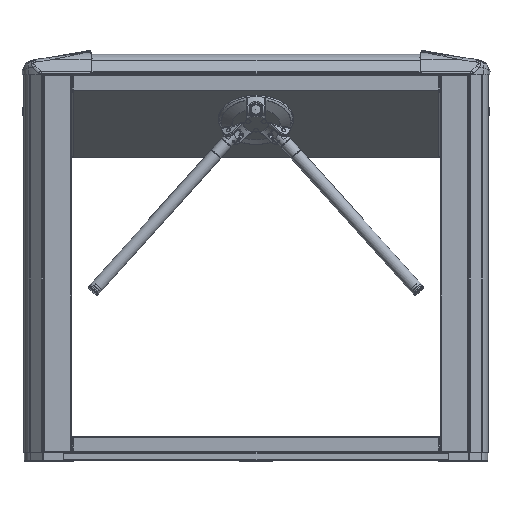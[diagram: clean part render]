
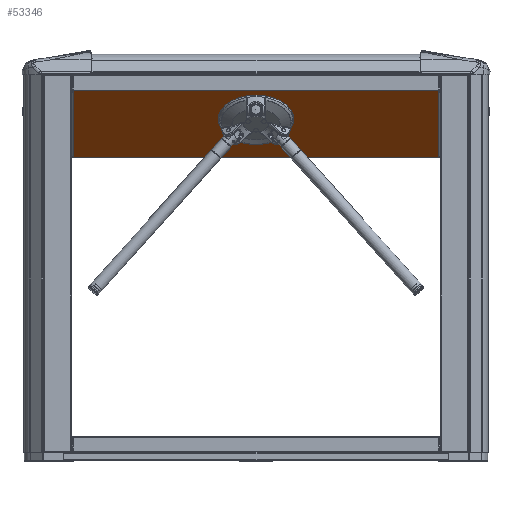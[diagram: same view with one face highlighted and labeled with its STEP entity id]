
A CAD part, front view. The second image highlights one B-rep face of the part: STEP entity #53346.
In plain terms, the highlighted planar face has unit normal (0, -0.643, -0.766) as drawn and (0.643, -0.766, 0) by its records, which use the part's own axes.
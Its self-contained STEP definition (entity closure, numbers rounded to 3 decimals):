
#5920=LINE('',#88881,#9576);
#5922=LINE('',#88890,#9578);
#5923=LINE('',#88893,#9579);
#5924=LINE('',#88895,#9580);
#5925=LINE('',#88896,#9581);
#5926=LINE('',#88898,#9582);
#5927=LINE('',#88902,#9583);
#5928=LINE('',#88906,#9584);
#5929=LINE('',#88908,#9585);
#5930=LINE('',#88910,#9586);
#5931=LINE('',#88912,#9587);
#5932=LINE('',#88914,#9588);
#5933=LINE('',#88916,#9589);
#5934=LINE('',#88918,#9590);
#9576=VECTOR('',#71250,1000.);
#9578=VECTOR('',#71258,1000.);
#9579=VECTOR('',#71259,1000.);
#9580=VECTOR('',#71260,1000.);
#9581=VECTOR('',#71261,1000.);
#9582=VECTOR('',#71262,1000.);
#9583=VECTOR('',#71265,1000.);
#9584=VECTOR('',#71268,1000.);
#9585=VECTOR('',#71269,1000.);
#9586=VECTOR('',#71270,1000.);
#9587=VECTOR('',#71271,1000.);
#9588=VECTOR('',#71272,1000.);
#9589=VECTOR('',#71273,1000.);
#9590=VECTOR('',#71274,1000.);
#14911=ORIENTED_EDGE('',*,*,#29803,.F.);
#14912=ORIENTED_EDGE('',*,*,#29804,.T.);
#14913=ORIENTED_EDGE('',*,*,#29805,.T.);
#14914=ORIENTED_EDGE('',*,*,#29806,.T.);
#14915=ORIENTED_EDGE('',*,*,#29800,.T.);
#14916=ORIENTED_EDGE('',*,*,#29807,.T.);
#14917=ORIENTED_EDGE('',*,*,#29808,.T.);
#14918=ORIENTED_EDGE('',*,*,#29809,.T.);
#14919=ORIENTED_EDGE('',*,*,#29810,.T.);
#14920=ORIENTED_EDGE('',*,*,#29811,.F.);
#14921=ORIENTED_EDGE('',*,*,#29812,.F.);
#14922=ORIENTED_EDGE('',*,*,#29813,.F.);
#14923=ORIENTED_EDGE('',*,*,#29814,.F.);
#14924=ORIENTED_EDGE('',*,*,#29815,.F.);
#14925=ORIENTED_EDGE('',*,*,#29816,.F.);
#14926=ORIENTED_EDGE('',*,*,#29817,.F.);
#14927=ORIENTED_EDGE('',*,*,#29818,.F.);
#29800=EDGE_CURVE('',#37379,#37380,#5920,.T.);
#29803=EDGE_CURVE('',#37382,#37382,#41761,.T.);
#29804=EDGE_CURVE('',#37383,#37384,#5922,.F.);
#29805=EDGE_CURVE('',#37384,#37385,#5923,.T.);
#29806=EDGE_CURVE('',#37385,#37379,#5924,.F.);
#29807=EDGE_CURVE('',#37380,#37386,#5925,.F.);
#29808=EDGE_CURVE('',#37386,#37387,#5926,.T.);
#29809=EDGE_CURVE('',#37387,#37388,#41762,.F.);
#29810=EDGE_CURVE('',#37388,#37389,#5927,.T.);
#29811=EDGE_CURVE('',#37390,#37389,#41763,.F.);
#29812=EDGE_CURVE('',#37391,#37390,#5928,.T.);
#29813=EDGE_CURVE('',#37392,#37391,#5929,.F.);
#29814=EDGE_CURVE('',#37393,#37392,#5930,.T.);
#29815=EDGE_CURVE('',#37394,#37393,#5931,.F.);
#29816=EDGE_CURVE('',#37395,#37394,#5932,.T.);
#29817=EDGE_CURVE('',#37396,#37395,#5933,.F.);
#29818=EDGE_CURVE('',#37383,#37396,#5934,.T.);
#37379=VERTEX_POINT('',#88882);
#37380=VERTEX_POINT('',#88883);
#37382=VERTEX_POINT('',#88889);
#37383=VERTEX_POINT('',#88891);
#37384=VERTEX_POINT('',#88892);
#37385=VERTEX_POINT('',#88894);
#37386=VERTEX_POINT('',#88897);
#37387=VERTEX_POINT('',#88899);
#37388=VERTEX_POINT('',#88901);
#37389=VERTEX_POINT('',#88903);
#37390=VERTEX_POINT('',#88905);
#37391=VERTEX_POINT('',#88907);
#37392=VERTEX_POINT('',#88909);
#37393=VERTEX_POINT('',#88911);
#37394=VERTEX_POINT('',#88913);
#37395=VERTEX_POINT('',#88915);
#37396=VERTEX_POINT('',#88917);
#41761=CIRCLE('',#64029,94.);
#41762=CIRCLE('',#64030,2.5);
#41763=CIRCLE('',#64031,2.5);
#44291=EDGE_LOOP('',(#14911));
#44292=EDGE_LOOP('',(#14912,#14913,#14914,#14915,#14916,#14917,#14918,#14919,
#14920,#14921,#14922,#14923,#14924,#14925,#14926,#14927));
#48239=FACE_BOUND('',#44291,.T.);
#48240=FACE_BOUND('',#44292,.T.);
#51841=PLANE('',#64028);
#53346=ADVANCED_FACE('',(#48239,#48240),#51841,.T.);
#64028=AXIS2_PLACEMENT_3D('',#88887,#71254,#71255);
#64029=AXIS2_PLACEMENT_3D('',#88888,#71256,#71257);
#64030=AXIS2_PLACEMENT_3D('',#88900,#71263,#71264);
#64031=AXIS2_PLACEMENT_3D('',#88904,#71266,#71267);
#71250=DIRECTION('',(0.,0.,1.));
#71254=DIRECTION('',(0.643,-0.766,0.));
#71255=DIRECTION('',(0.766,0.643,0.));
#71256=DIRECTION('',(0.643,-0.766,0.));
#71257=DIRECTION('',(0.766,0.643,0.));
#71258=DIRECTION('',(0.766,0.643,0.));
#71259=DIRECTION('',(0.,0.,-1.));
#71260=DIRECTION('',(0.766,0.643,0.));
#71261=DIRECTION('',(0.766,0.643,0.));
#71262=DIRECTION('',(0.,0.,-1.));
#71263=DIRECTION('',(0.643,-0.766,0.));
#71264=DIRECTION('',(0.766,0.643,0.));
#71265=DIRECTION('',(0.,0.,-1.));
#71266=DIRECTION('',(-0.643,0.766,0.));
#71267=DIRECTION('',(0.766,0.643,0.));
#71268=DIRECTION('',(0.,0.,1.));
#71269=DIRECTION('',(0.766,0.643,0.));
#71270=DIRECTION('',(0.,0.,-1.));
#71271=DIRECTION('',(0.766,0.643,0.));
#71272=DIRECTION('',(0.,0.,1.));
#71273=DIRECTION('',(0.766,0.643,0.));
#71274=DIRECTION('',(0.,0.,-1.));
#88881=CARTESIAN_POINT('',(-198.995,-206.977,460.));
#88882=CARTESIAN_POINT('',(-198.995,-206.977,457.));
#88883=CARTESIAN_POINT('',(-198.995,-206.977,458.3));
#88887=CARTESIAN_POINT('',(0.,-40.,460.));
#88888=CARTESIAN_POINT('',(-85.697,-111.908,0.));
#88889=CARTESIAN_POINT('',(-13.689,-51.486,0.));
#88890=CARTESIAN_POINT('',(0.,-40.,458.3));
#88891=CARTESIAN_POINT('',(-1.072,-40.899,458.3));
#88892=CARTESIAN_POINT('',(-1.148,-40.963,458.3));
#88893=CARTESIAN_POINT('',(-1.148,-40.963,460.));
#88894=CARTESIAN_POINT('',(-1.148,-40.963,457.));
#88895=CARTESIAN_POINT('',(-1.148,-40.963,457.));
#88896=CARTESIAN_POINT('',(0.,-40.,458.3));
#88897=CARTESIAN_POINT('',(-199.072,-207.041,458.3));
#88898=CARTESIAN_POINT('',(-199.072,-207.041,460.));
#88899=CARTESIAN_POINT('',(-199.072,-207.041,395.986));
#88900=CARTESIAN_POINT('',(-200.831,-208.518,395.));
#88901=CARTESIAN_POINT('',(-199.072,-207.041,394.014));
#88902=CARTESIAN_POINT('',(-199.072,-207.041,460.));
#88903=CARTESIAN_POINT('',(-199.072,-207.041,-394.014));
#88904=CARTESIAN_POINT('',(-200.831,-208.518,-395.));
#88905=CARTESIAN_POINT('',(-199.072,-207.041,-395.986));
#88906=CARTESIAN_POINT('',(-199.072,-207.041,-460.));
#88907=CARTESIAN_POINT('',(-199.072,-207.041,-458.3));
#88908=CARTESIAN_POINT('',(0.,-40.,-458.3));
#88909=CARTESIAN_POINT('',(-198.995,-206.977,-458.3));
#88910=CARTESIAN_POINT('',(-198.995,-206.977,-460.));
#88911=CARTESIAN_POINT('',(-198.995,-206.977,-457.));
#88912=CARTESIAN_POINT('',(-1.148,-40.963,-457.));
#88913=CARTESIAN_POINT('',(-1.148,-40.963,-457.));
#88914=CARTESIAN_POINT('',(-1.148,-40.963,-460.));
#88915=CARTESIAN_POINT('',(-1.148,-40.963,-458.3));
#88916=CARTESIAN_POINT('',(0.,-40.,-458.3));
#88917=CARTESIAN_POINT('',(-1.072,-40.899,-458.3));
#88918=CARTESIAN_POINT('',(-1.072,-40.899,460.));
